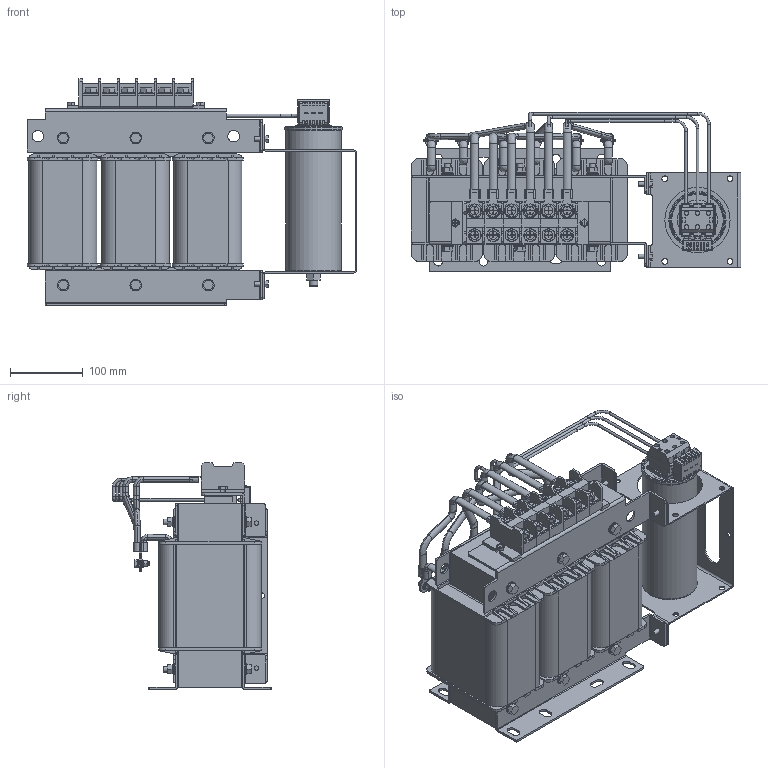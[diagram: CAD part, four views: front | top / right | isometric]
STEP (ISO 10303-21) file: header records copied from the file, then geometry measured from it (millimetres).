
FILE_DESCRIPTION (( 'STEP AP203' ), '1' );
FILE_NAME ('蔓躅漤铋 耔眢耥 翳朦蝠 _ ISINOF-37_76-4.STEP', '2026-07-20T06:36:24', ( '' ), ( '' ), 'SwSTEP 2.0', 'SolidWorks 2021', '' );
FILE_SCHEMA (( 'CONFIG_CONTROL_DESIGN' ));
Length unit declared in the file: millimetre
Products named in the file (209): 37KW滤波电抗器380V50Hz_191; 37KW滤波电抗器380V50Hz_165; 37KW滤波电抗器380V50Hz_13; 37KW滤波电抗器380V50Hz_174; 37KW滤波电抗器380V50Hz_194; 37KW滤波电抗器380V50Hz_97; 37KW滤波电抗器380V50Hz_122; 37KW滤波电抗器380V50Hz_142; 37KW滤波电抗器380V50Hz_181; 37KW滤波电抗器380V50Hz_114; 37KW滤波电抗器380V50Hz_154; 37KW滤波电抗器380V50Hz_58; 37KW滤波电抗器380V50Hz_3; 37KW滤波电抗器380V50Hz_199; 37KW滤波电抗器380V50Hz_116; 37KW滤波电抗器380V50Hz_187; 37KW滤波电抗器380V50Hz_7; 37KW滤波电抗器380V50Hz_131; 37KW滤波电抗器380V50Hz_39; 37KW滤波电抗器380V50Hz_156; 37KW滤波电抗器380V50Hz_102; 37KW滤波电抗器380V50Hz_9; 37KW滤波电抗器380V50Hz_186; 37KW滤波电抗器380V50Hz_26; 37KW滤波电抗器380V50Hz_65; 37KW滤波电抗器380V50Hz_129; 37KW滤波电抗器380V50Hz_55; 37KW滤波电抗器380V50Hz_51; 37KW滤波电抗器380V50Hz_195; 37KW滤波电抗器380V50Hz_183; 37KW滤波电抗器380V50Hz_133; 37KW滤波电抗器380V50Hz_96; 37KW滤波电抗器380V50Hz_157; 37KW滤波电抗器380V50Hz_27; 37KW滤波电抗器380V50Hz_163; 37KW滤波电抗器380V50Hz_137; 37KW滤波电抗器380V50Hz_89; 37KW滤波电抗器380V50Hz_2; 37KW滤波电抗器380V50Hz_170; 37KW滤波电抗器380V50Hz_6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
Assembly tree (208 placements, depth 2):
  蔓躅漤铋 耔眢耥 翳朦蝠 _ ISINOF-37_76-4
    37KW滤波电抗器380V50Hz_38
    37KW滤波电抗器380V50Hz_81
    37KW滤波电抗器380V50Hz_114
    37KW滤波电抗器380V50Hz_84
    37KW滤波电抗器380V50Hz_49
    37KW滤波电抗器380V50Hz_51
    37KW滤波电抗器380V50Hz_141
    37KW滤波电抗器380V50Hz_201
    37KW滤波电抗器380V50Hz_110
    37KW滤波电抗器380V50Hz_127
    37KW滤波电抗器380V50Hz_64
    37KW滤波电抗器380V50Hz_76
    37KW滤波电抗器380V50Hz_1
    37KW滤波电抗器380V50Hz_40
    37KW滤波电抗器380V50Hz_88
    37KW滤波电抗器380V50Hz_174
    37KW滤波电抗器380V50Hz_60
    37KW滤波电抗器380V50Hz_200
    37KW滤波电抗器380V50Hz_206
    37KW滤波电抗器380V50Hz_101
    37KW滤波电抗器380V50Hz_124
    37KW滤波电抗器380V50Hz_33
    37KW滤波电抗器380V50Hz_79
    37KW滤波电抗器380V50Hz_106
    37KW滤波电抗器380V50Hz_195
    37KW滤波电抗器380V50Hz_153
    37KW滤波电抗器380V50Hz_97
    37KW滤波电抗器380V50Hz_77
    37KW滤波电抗器380V50Hz_14
    37KW滤波电抗器380V50Hz_140
    37KW滤波电抗器380V50Hz_16
    37KW滤波电抗器380V50Hz_42
    37KW滤波电抗器380V50Hz_176
    37KW滤波电抗器380V50Hz_126
    37KW滤波电抗器380V50Hz_4
    37KW滤波电抗器380V50Hz_193
    37KW滤波电抗器380V50Hz_154
    37KW滤波电抗器380V50Hz_109
    37KW滤波电抗器380V50Hz_19
    37KW滤波电抗器380V50Hz_55
    37KW滤波电抗器380V50Hz_30
    37KW滤波电抗器380V50Hz_26
    37KW滤波电抗器380V50Hz_105
    37KW滤波电抗器380V50Hz_157
    37KW滤波电抗器380V50Hz_178
    37KW滤波电抗器380V50Hz_89
    37KW滤波电抗器380V50Hz_130
    37KW滤波电抗器380V50Hz_204
    37KW滤波电抗器380V50Hz_80
    37KW滤波电抗器380V50Hz_56
    37KW滤波电抗器380V50Hz_184
    37KW滤波电抗器380V50Hz_161
    37KW滤波电抗器380V50Hz_183
    37KW滤波电抗器380V50Hz_36
    37KW滤波电抗器380V50Hz_17
    37KW滤波电抗器380V50Hz_173
    37KW滤波电抗器380V50Hz_142
    37KW滤波电抗器380V50Hz_74
    37KW滤波电抗器380V50Hz_13
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Bounding box: 455 x 219.67 x 313 mm (x, y, z)
Volume: 9857265.9 mm3; surface area: 1810268.7 mm2
Topology: 208 solids, 208 shells, 3055 faces, 7825 edges, 5205 vertices
Faces by surface type: plane 2125, cylinder 676, bspline 153, cone 88, torus 13
Full cylindrical faces by diameter (mm): 4 x13, 5.053 x6, 6 x10, 6.3 x12, 6.45 x6, 6.5 x12, 8 x16, 9.55 x6, 9.961 x18, 12 x17, 12.471 x6, 13 x1, 16 x28, 18 x12, 24 x1, 73 x1, 76 x1, 79 x1, 90 x1
Entity records: 124439 total; most frequent: CARTESIAN_POINT 30133, ORIENTED_EDGE 15130, DIRECTION 13749, EDGE_CURVE 7565, VECTOR 5357, LINE 5357, VERTEX_POINT 5168, AXIS2_PLACEMENT_3D 4196
